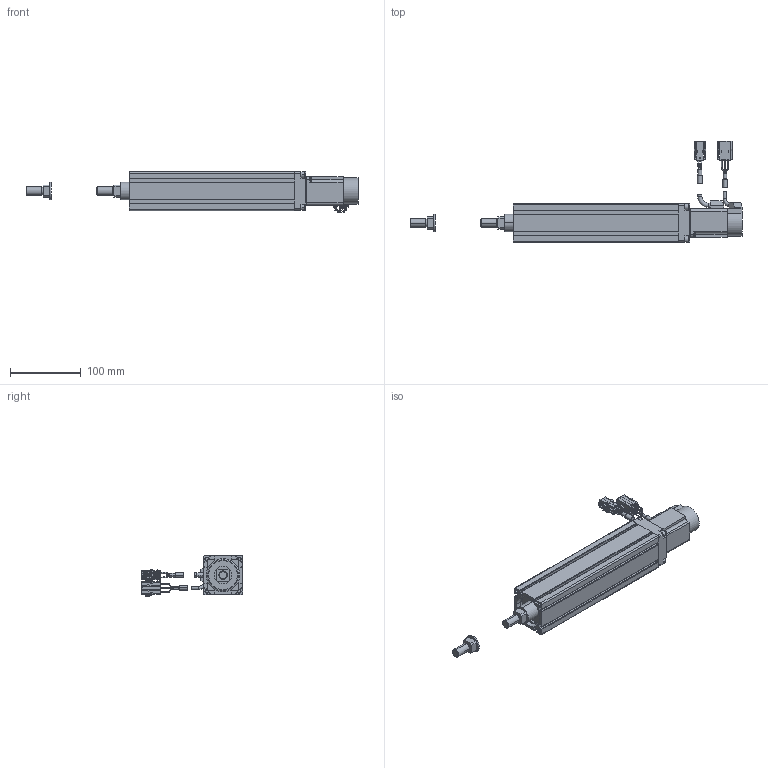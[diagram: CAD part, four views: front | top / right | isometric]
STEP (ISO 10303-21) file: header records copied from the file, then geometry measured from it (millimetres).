
FILE_DESCRIPTION((''),'2;1');
FILE_NAME('BET5E-ST-C_N-10_IGS_PRT','2017-06-18T',(' '),(''),'PRO/ENGINEER BY PARAMETRIC TECHNOLOGY CORPORATION, 2015030','PRO/ENGINEER BY PARAMETRIC TECHNOLOGY CORPORATION, 2015030','');
FILE_SCHEMA(('CONFIG_CONTROL_DESIGN'));
Length unit declared in the file: millimetre
Products named in the file (1): BET5E-ST-C_N-10_IGS_PRT
Bounding box: 468.5 x 142.55 x 57.56 mm (x, y, z)
Volume: 613754.6 mm3; surface area: 177178.7 mm2
Topology: 7 solids, 33 shells, 894 faces, 2311 edges, 1492 vertices
Faces by surface type: plane 557, cylinder 245, torus 66, cone 22, sphere 4
Entity records: 27385 total; most frequent: CARTESIAN_POINT 4975, DIRECTION 4711, ORIENTED_EDGE 4550, EDGE_CURVE 2303, VECTOR 1617, LINE 1617, AXIS2_PLACEMENT_3D 1547, VERTEX_POINT 1492
